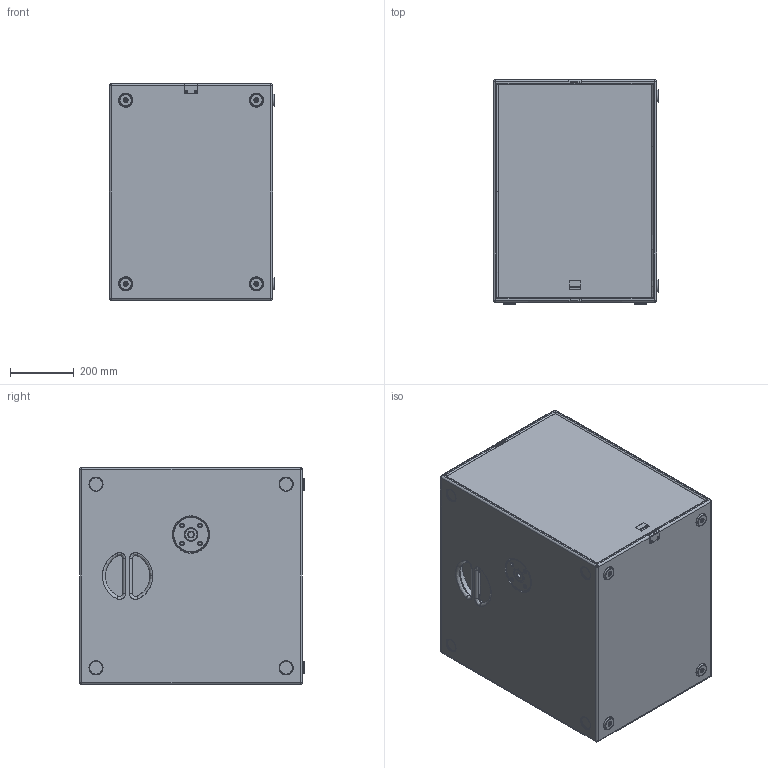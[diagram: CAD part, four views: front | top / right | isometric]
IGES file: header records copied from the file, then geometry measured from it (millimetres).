
Start section: SolidWorks IGES file using analytic representation for surfaces
Global section: file name: C:\Dokumente und Einstellungen\PC_Fabian\Desktop\G-Serie\Seeburg_G-Sub.IGS; native system: SolidWorks 2009; preprocessor: SolidWorks 2009; author: PC_Fabian; date: 121015.151555; units: millimetre
Bounding box: 518 x 704 x 680 mm (x, y, z)
Surface area: 4916332.8 mm2 (no closed solid volume)
Topology: 0 solids, 0 shells, 704 faces, 11829 edges, 11825 vertices
Faces by surface type: revolution 365, bspline 339
